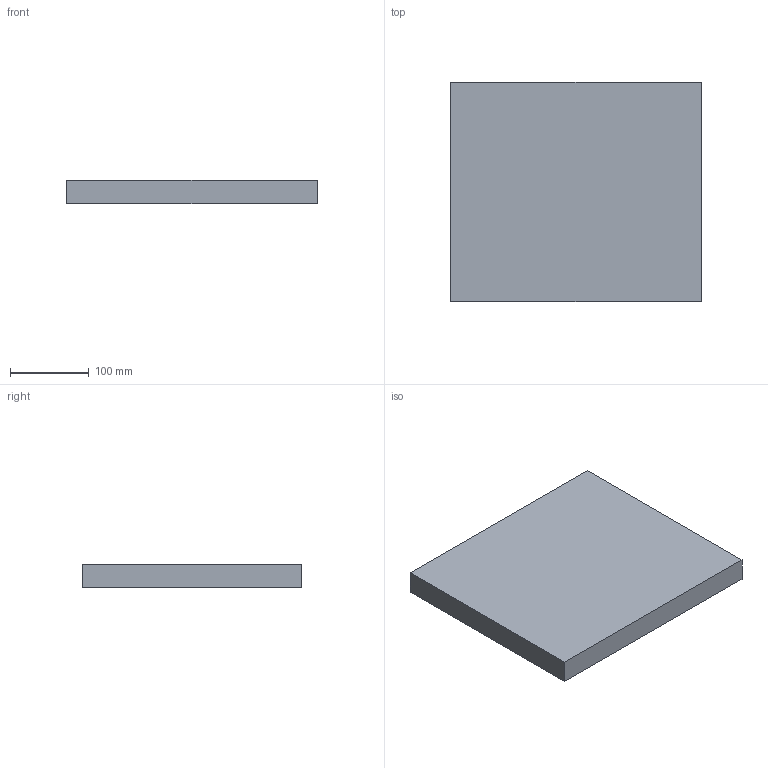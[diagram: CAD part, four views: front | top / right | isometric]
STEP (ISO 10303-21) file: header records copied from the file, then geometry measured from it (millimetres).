
FILE_DESCRIPTION(('Open CASCADE Model'),'2;1');
FILE_NAME('Open CASCADE Shape Model','2026-10-16T19:20:08',('Author'),( 'Open CASCADE'),'Open CASCADE STEP processor 7.8','Open CASCADE 7.8' ,'Unknown');
FILE_SCHEMA(('AUTOMOTIVE_DESIGN { 1 0 10303 214 1 1 1 1 }'));
Length unit declared in the file: millimetre
Products named in the file (1): Open CASCADE STEP translator 7.8 8
Bounding box: 318 x 278 x 30 mm (x, y, z)
Volume: 2652120 mm3; surface area: 212568 mm2
Topology: 1 solids, 1 shells, 6 faces, 12 edges, 8 vertices
Faces by surface type: plane 6
Entity records: 322 total; most frequent: CARTESIAN_POINT 51, DIRECTION 50, LINE 36, VECTOR 36, ORIENTED_EDGE 24, PCURVE 24, DEFINITIONAL_REPRESENTATION 24, EDGE_CURVE 12
